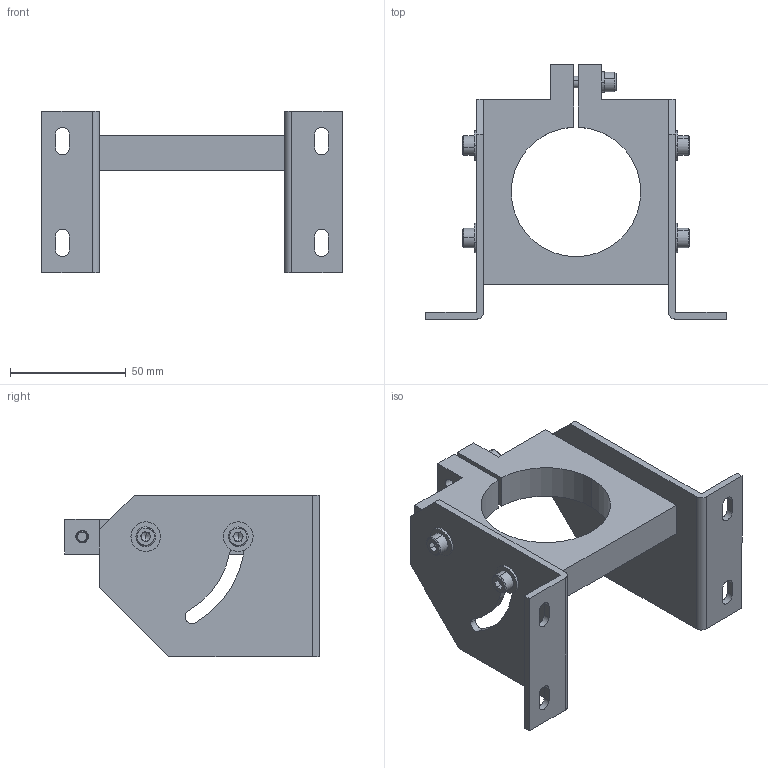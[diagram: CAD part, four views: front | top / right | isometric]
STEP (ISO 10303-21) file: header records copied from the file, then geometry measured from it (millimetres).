
FILE_DESCRIPTION (( 'STEP AP214' ), '1' );
FILE_NAME ('NR30ST.STEP', '2019-11-28T01:25:59', ( '微软用户' ), ( '微软中国' ), 'SwSTEP 2.0', 'SolidWorks 2016', '' );
FILE_SCHEMA (( 'AUTOMOTIVE_DESIGN' ));
Length unit declared in the file: millimetre
Products named in the file (1): NR30ST
Bounding box: 130 x 110 x 70 mm (x, y, z)
Volume: 107866.3 mm3; surface area: 53346.5 mm2
Topology: 13 solids, 13 shells, 240 faces, 555 edges, 345 vertices
Faces by surface type: plane 130, cylinder 58, bspline 52
Entity records: 9623 total; most frequent: CARTESIAN_POINT 1777, ORIENTED_EDGE 1090, DIRECTION 945, EDGE_CURVE 545, VERTEX_POINT 345, VECTOR 335, LINE 335, AXIS2_PLACEMENT_3D 305
